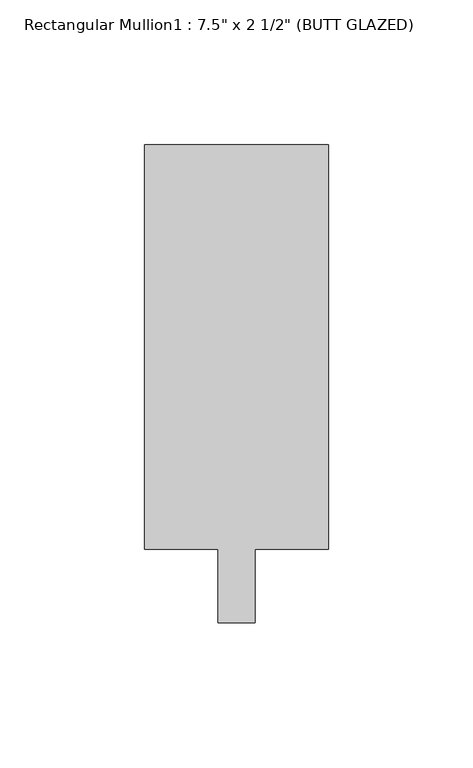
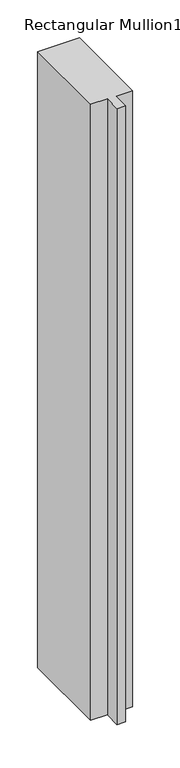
"""IFC4 building model written with IfcOpenShell, lengths in millimetres: member geometry."""

from ifc_helpers import new_model, si_unit, frame, origin, place, context, project, spatial, polyline, outline, extrude, source, transform, mapped, element, save


def member_86efc6af(model_context):
    return source(origin(), model_context, "Body", "SweptSolid", [
        extrude(outline(polyline([(31.75, 165.1), (31.75, 25.4), (6.35, 25.4), (6.35, 0.0), (-6.35, 0.0), (-6.35, 25.4), (-31.75, 25.4), (-31.75, 165.1), (31.75, 165.1)])), frame((0.0, 0.0, -990.5999994), z_axis=(0.0, 0.0, 1.0), x_axis=(1.0, 0.0, 0.0)), (0.0, 0.0, 1.0), 990.5999994),
    ])


if __name__ == "__main__":
    model = new_model("IFC4")
    model_context = context("Model", 3, world=origin())
    ifc_project = project(units=[si_unit("LENGTHUNIT", "METRE", prefix="MILLI")], contexts=[model_context])
    site = spatial("IfcSite", under=ifc_project)
    building = spatial("IfcBuilding", under=site)
    placement = place(None, origin())
    member_shape = member_86efc6af(model_context)
    element("IfcMember", 1, ObjectType="Rectangular Mullion1 : 7.5\" x 2 1/2\" (BUTT GLAZED)", at=placement, inside=building, context=model_context, shape_type="MappedRepresentation", body=[
        mapped(member_shape, transform((0.0, 0.0, 0.0), x_axis=(1.0, 0.0, 0.0), y_axis=(0.0, 1.0, 0.0), z_axis=(0.0, 0.0, 1.0))),
    ])
    save(model, "model.ifc")
